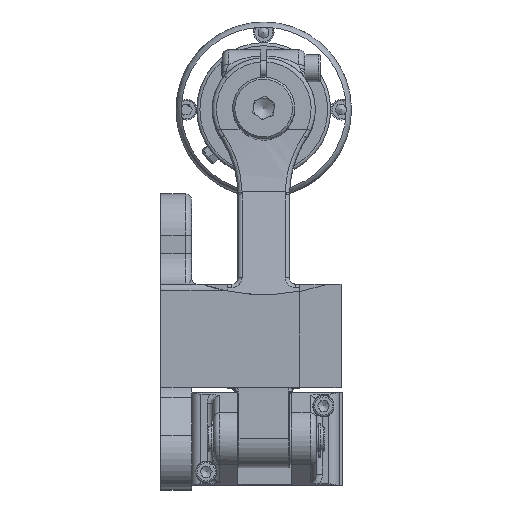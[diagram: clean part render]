
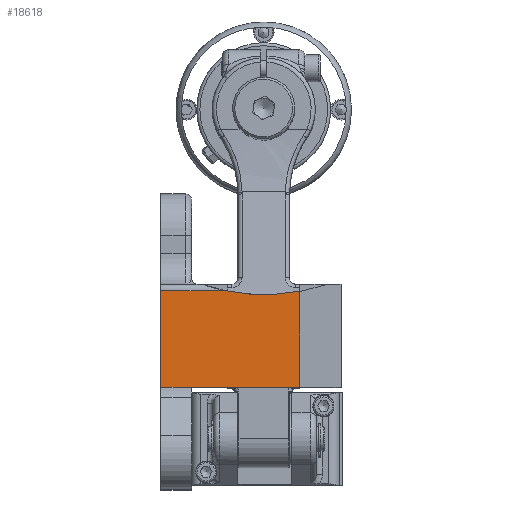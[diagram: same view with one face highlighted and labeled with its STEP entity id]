
A CAD part, top view. The second image highlights one B-rep face of the part: STEP entity #18618.
In plain terms, the highlighted planar face has unit normal (0, 0, 1).
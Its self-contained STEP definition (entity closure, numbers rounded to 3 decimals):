
#1444=CIRCLE('',#20253,92.);
#2425=FACE_OUTER_BOUND('',#3474,.T.);
#3474=EDGE_LOOP('',(#13999,#14000,#14001,#14002,#14003,#14004,#14005));
#4625=LINE('',#33479,#5873);
#4626=LINE('',#33481,#5874);
#4627=LINE('',#33483,#5875);
#4628=LINE('',#33485,#5876);
#4629=LINE('',#33487,#5877);
#4630=LINE('',#33488,#5878);
#5873=VECTOR('',#24138,10.);
#5874=VECTOR('',#24139,10.);
#5875=VECTOR('',#24140,10.);
#5876=VECTOR('',#24141,10.);
#5877=VECTOR('',#24142,10.);
#5878=VECTOR('',#24143,10.);
#7732=VERTEX_POINT('',#33428);
#7733=VERTEX_POINT('',#33445);
#7741=VERTEX_POINT('',#33478);
#7742=VERTEX_POINT('',#33480);
#7743=VERTEX_POINT('',#33482);
#7744=VERTEX_POINT('',#33484);
#7745=VERTEX_POINT('',#33486);
#10008=EDGE_CURVE('',#7733,#7732,#1444,.T.);
#10020=EDGE_CURVE('',#7741,#7732,#4625,.T.);
#10021=EDGE_CURVE('',#7742,#7741,#4626,.T.);
#10022=EDGE_CURVE('',#7743,#7742,#4627,.T.);
#10023=EDGE_CURVE('',#7744,#7743,#4628,.T.);
#10024=EDGE_CURVE('',#7745,#7744,#4629,.T.);
#10025=EDGE_CURVE('',#7733,#7745,#4630,.T.);
#13999=ORIENTED_EDGE('',*,*,#10008,.T.);
#14000=ORIENTED_EDGE('',*,*,#10020,.F.);
#14001=ORIENTED_EDGE('',*,*,#10021,.F.);
#14002=ORIENTED_EDGE('',*,*,#10022,.F.);
#14003=ORIENTED_EDGE('',*,*,#10023,.F.);
#14004=ORIENTED_EDGE('',*,*,#10024,.F.);
#14005=ORIENTED_EDGE('',*,*,#10025,.F.);
#16855=PLANE('',#20260);
#18618=ADVANCED_FACE('',(#2425),#16855,.T.);
#20253=AXIS2_PLACEMENT_3D('',#33446,#24115,#24116);
#20260=AXIS2_PLACEMENT_3D('',#33477,#24136,#24137);
#24115=DIRECTION('center_axis',(0.,0.,-1.));
#24116=DIRECTION('ref_axis',(1.,0.,0.));
#24136=DIRECTION('center_axis',(0.,0.,1.));
#24137=DIRECTION('ref_axis',(1.,0.,0.));
#24138=DIRECTION('',(1.,0.,0.));
#24139=DIRECTION('',(0.,1.,0.));
#24140=DIRECTION('',(-1.,0.,0.));
#24141=DIRECTION('',(-1.,0.,0.));
#24142=DIRECTION('',(0.,-1.,0.));
#24143=DIRECTION('',(0.,-1.,0.));
#33428=CARTESIAN_POINT('',(30.921,47.,80.));
#33445=CARTESIAN_POINT('',(67.5,46.68,80.));
#33446=CARTESIAN_POINT('Origin',(50.,137.,80.));
#33477=CARTESIAN_POINT('Origin',(26.598,39.848,80.));
#33478=CARTESIAN_POINT('',(0.,47.,80.));
#33479=CARTESIAN_POINT('',(20.799,47.,80.));
#33480=CARTESIAN_POINT('',(0.,0.,80.));
#33481=CARTESIAN_POINT('',(0.,94.,80.));
#33482=CARTESIAN_POINT('',(15.,0.,80.));
#33483=CARTESIAN_POINT('',(0.,0.,80.));
#33484=CARTESIAN_POINT('',(67.5,0.,80.));
#33485=CARTESIAN_POINT('',(0.,0.,80.));
#33486=CARTESIAN_POINT('',(67.5,46.444,80.));
#33487=CARTESIAN_POINT('',(67.5,0.,80.));
#33488=CARTESIAN_POINT('',(67.5,0.,80.));
